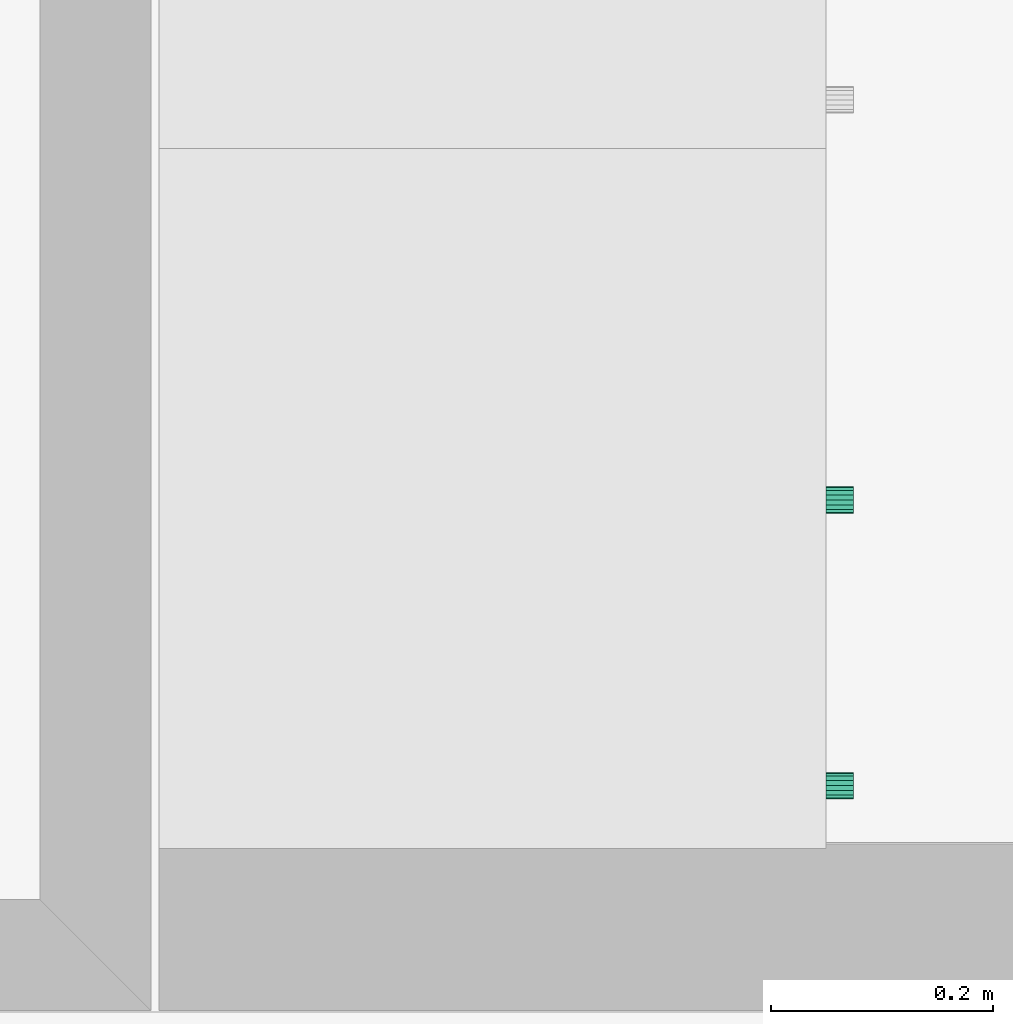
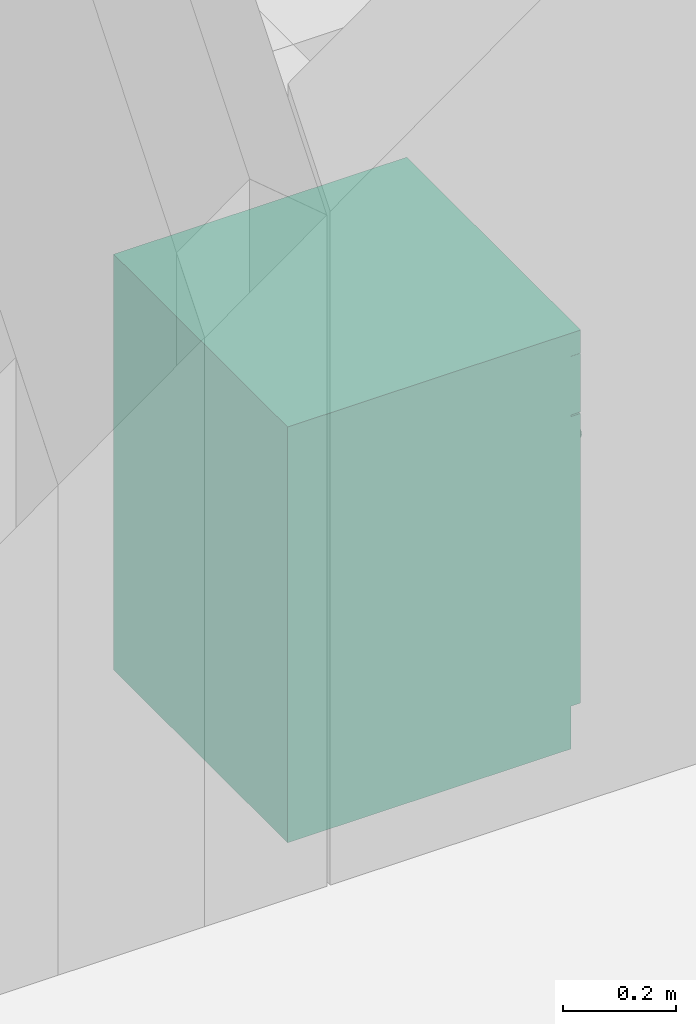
# One storey, part 69 of 172: 1 flow terminal.
"""IFC2X3 building model written with IfcOpenShell, lengths in millimetres."""

from ifc_helpers import new_model, entity, si_unit, converted_unit, money_unit, direction, frame, origin_with_axes, place, context, subcontext, project, spatial, faceted_brep, material, material_list, type_object, element, save


model = new_model("IFC2X3")

# Units and contexts
model_context = context("Model", 3, precision=1e-05, world=origin_with_axes(), true_north=direction((0.0, 1.0)))
body_context = subcontext(model_context, "Body", "Model", "MODEL_VIEW")
ifc_project = project(units=[si_unit("LENGTHUNIT", "METRE", prefix="MILLI"), si_unit("AREAUNIT", "SQUARE_METRE"), si_unit("VOLUMEUNIT", "CUBIC_METRE"), converted_unit("PLANEANGLEUNIT", "DEGREE", entity("IfcPlaneAngleMeasure", 0.0174532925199), si_unit("PLANEANGLEUNIT", "RADIAN"), dimensions=[0, 0, 0, 0, 0, 0, 0]), si_unit("SOLIDANGLEUNIT", "STERADIAN"), money_unit("USD"), converted_unit("TIMEUNIT", "Year", entity("IfcTimeMeasure", 31556926.0), si_unit("TIMEUNIT", "SECOND"), dimensions=[0, 0, 0, 0, 0, 0, 0]), si_unit("MASSUNIT", "GRAM"), si_unit("THERMODYNAMICTEMPERATUREUNIT", "DEGREE_CELSIUS"), si_unit("LUMINOUSINTENSITYUNIT", "LUMEN")], contexts=[model_context])

# Site, building, storey
site_placement = place(None, origin_with_axes())
site = spatial("IfcSite", under=ifc_project, at=site_placement, Name="Site", CompositionType="ELEMENT")
building_placement = place(site_placement, origin_with_axes())
building = spatial("IfcBuilding", under=site, at=building_placement, Name="Building", CompositionType="ELEMENT")
storey_placement = place(building_placement, frame((0.0, 0.0, 3200.0), z_axis=(0.0, 0.0, 1.0), x_axis=(1.0, 0.0, 0.0)))
storey = spatial("IfcBuildingStorey", under=building, at=storey_placement, Name="3KORRUS", CompositionType="ELEMENT", Elevation=3200.0)

# Flow terminal
ifc_material = material(Name="Background")
ifc_material_list = material_list([ifc_material])
sanitary_terminal_type = type_object("IfcSanitaryTerminalType", Name="Cabinet Base Single Door 19", PredefinedType="SINK")
flow_terminal_placement = place(storey_placement, frame((866.697734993, -10368.6268342, 0.0), z_axis=(0.0, 0.0, 1.0), x_axis=(0.0, 1.0, 0.0)))
element("IfcFlowTerminal", 1, at=flow_terminal_placement, inside=storey, type_object=sanitary_terminal_type, material=ifc_material_list, Name="FU - 007", context=body_context, shape_type="Brep", body=[
    faceted_brep([(-20.0, 20.0, 710.0), (-20.0, 20.0, 730.0), (-596.977, 20.0, 730.0), (-596.977, 20.0, 710.0), (-20.0, 580.0, 710.0), (-20.0, 580.0, 730.0), (-596.977, 580.0, 730.0), (-596.977, 580.0, 710.0)], [[[0, 1, 2, 3]], [[4, 5, 1, 0]], [[1, 5, 6, 2]], [[3, 2, 6, 7]], [[0, 3, 7, 4]], [[7, 6, 5, 4]]]),
    faceted_brep([(0.0, 20.0, 0.0), (0.0, 20.0, 90.0), (-616.977, 20.0, 90.0), (-616.977, 20.0, 0.0), (0.0, 600.0, 0.0), (0.0, 600.0, 90.0), (-616.977, 600.0, 90.0), (-616.977, 600.0, 0.0)], [[[0, 1, 2, 3]], [[4, 5, 1, 0]], [[1, 5, 6, 2]], [[3, 2, 6, 7]], [[0, 3, 7, 4]], [[7, 6, 5, 4]]]),
    faceted_brep([(0.0, 20.0, 830.0), (0.0, 20.0, 850.0), (-20.0, 20.0, 850.0), (-20.0, 20.0, 830.0), (0.0, 600.0, 830.0), (0.0, 600.0, 850.0), (-20.0, 600.0, 850.0), (-596.977, 600.0, 850.0), (-616.977, 600.0, 850.0), (-616.977, 20.0, 850.0), (-596.977, 20.0, 850.0), (-596.977, 20.0, 830.0), (-616.977, 20.0, 830.0), (-616.977, 600.0, 830.0), (-596.977, 600.0, 830.0), (-20.0, 600.0, 830.0)], [[[0, 1, 2, 3]], [[4, 5, 1, 0]], [[1, 5, 6, 7, 8, 9, 10, 2]], [[3, 2, 10, 11]], [[0, 3, 11, 12, 13, 14, 15, 4]], [[15, 6, 5, 4]], [[14, 7, 6, 15]], [[13, 8, 7, 14]], [[12, 9, 8, 13]], [[11, 10, 9, 12]]]),
    faceted_brep([(0.0, 20.0, 90.0), (0.0, 20.0, 110.0), (-20.0, 20.0, 110.0), (-20.0, 20.0, 90.0), (0.0, 600.0, 90.0), (0.0, 600.0, 110.0), (-20.0, 600.0, 110.0), (-596.977, 600.0, 110.0), (-616.977, 600.0, 110.0), (-616.977, 20.0, 110.0), (-596.977, 20.0, 110.0), (-596.977, 20.0, 90.0), (-616.977, 20.0, 90.0), (-616.977, 600.0, 90.0), (-596.977, 600.0, 90.0), (-20.0, 600.0, 90.0)], [[[0, 1, 2, 3]], [[4, 5, 1, 0]], [[1, 5, 6, 7, 8, 9, 10, 2]], [[3, 2, 10, 11]], [[0, 3, 11, 12, 13, 14, 15, 4]], [[15, 6, 5, 4]], [[14, 7, 6, 15]], [[13, 8, 7, 14]], [[12, 9, 8, 13]], [[11, 10, 9, 12]]]),
    faceted_brep([(0.0, 20.0, 110.0), (0.0, 20.0, 830.0), (-20.0, 20.0, 830.0), (-20.0, 20.0, 110.0), (0.0, 600.0, 110.0), (0.0, 600.0, 830.0), (-616.977, 600.0, 830.0), (-616.977, 20.0, 830.0), (-596.977, 20.0, 830.0), (-596.977, 580.0, 830.0), (-20.0, 580.0, 830.0), (-20.0, 580.0, 110.0), (-596.977, 580.0, 110.0), (-596.977, 20.0, 110.0), (-616.977, 20.0, 110.0), (-616.977, 600.0, 110.0)], [[[0, 1, 2, 3]], [[4, 5, 1, 0]], [[1, 5, 6, 7, 8, 9, 10, 2]], [[3, 2, 10, 11]], [[0, 3, 11, 12, 13, 14, 15, 4]], [[15, 6, 5, 4]], [[14, 7, 6, 15]], [[13, 8, 7, 14]], [[12, 9, 8, 13]], [[11, 10, 9, 12]]]),
    faceted_brep([(-596.977, 20.0, 385.0), (-596.977, 20.0, 405.0), (-596.977, 580.0, 405.0), (-596.977, 580.0, 385.0), (-20.0, 20.0, 385.0), (-20.0, 20.0, 405.0), (-20.0, 580.0, 405.0), (-20.0, 580.0, 385.0)], [[[0, 1, 2, 3]], [[4, 5, 1, 0]], [[1, 5, 6, 2]], [[3, 2, 6, 7]], [[0, 3, 7, 4]], [[7, 6, 5, 4]]]),
    faceted_brep([(0.0, 0.0, 850.0), (0.0, 0.0, 900.0), (-616.977, 0.0, 900.0), (-616.977, 0.0, 850.0), (0.0, 600.0, 850.0), (0.0, 600.0, 900.0), (-616.977, 600.0, 900.0), (-616.977, 600.0, 850.0)], [[[0, 1, 2, 3]], [[4, 5, 1, 0]], [[1, 5, 6, 2]], [[3, 2, 6, 7]], [[0, 3, 7, 4]], [[7, 6, 5, 4]]]),
    faceted_brep([(-1.5, 20.0, 721.5), (-1.5, 0.0, 721.5), (-615.477, 0.0, 721.5), (-615.477, 20.0, 721.5), (-1.5, 20.0, 848.5), (-1.5, 0.0, 848.5), (-615.477, 0.0, 848.5), (-615.477, 20.0, 848.5)], [[[0, 1, 2, 3]], [[4, 5, 1, 0]], [[1, 5, 6, 2]], [[3, 2, 6, 7]], [[0, 3, 7, 4]], [[7, 6, 5, 4]]]),
    faceted_brep([(-303.896, 0.0, 773.913), (-308.489, 0.0, 773.0), (-313.081, 0.0, 773.913), (-316.974, 0.0, 776.515), (-319.575, 0.0, 780.408), (-320.489, 0.0, 785.0), (-319.575, 0.0, 789.592), (-316.974, 0.0, 793.485), (-313.081, 0.0, 796.087), (-308.489, 0.0, 797.0), (-303.896, 0.0, 796.087), (-300.003, 0.0, 793.485), (-297.402, 0.0, 789.592), (-296.489, 0.0, 785.0), (-297.402, 0.0, 780.408), (-300.003, 0.0, 776.515), (-303.896, -25.0, 773.913), (-308.489, -25.0, 773.0), (-313.081, -25.0, 773.913), (-316.974, -25.0, 776.515), (-319.575, -25.0, 780.408), (-320.489, -25.0, 785.0), (-319.575, -25.0, 789.592), (-316.974, -25.0, 793.485), (-313.081, -25.0, 796.087), (-308.489, -25.0, 797.0), (-303.896, -25.0, 796.087), (-300.003, -25.0, 793.485), (-297.402, -25.0, 789.592), (-296.489, -25.0, 785.0), (-297.402, -25.0, 780.408), (-300.003, -25.0, 776.515)], [[[0, 1, 2, 3, 4, 5, 6, 7, 8, 9, 10, 11, 12, 13, 14, 15]], [[0, 16, 17, 1]], [[1, 17, 18, 2]], [[2, 18, 19, 3]], [[3, 19, 20, 4]], [[4, 20, 21, 5]], [[5, 21, 22, 6]], [[6, 22, 23, 7]], [[7, 23, 24, 8]], [[8, 24, 25, 9]], [[9, 25, 26, 10]], [[10, 26, 27, 11]], [[11, 27, 28, 12]], [[12, 28, 29, 13]], [[13, 29, 30, 14]], [[14, 30, 31, 15]], [[15, 31, 16, 0]], [[16, 31, 30, 29, 28, 27, 26, 25, 24, 23, 22, 21, 20, 19, 18, 17]]]),
    faceted_brep([(-1.5, 20.0, 91.5), (-1.5, 0.0, 91.5), (-615.477, 0.0, 91.5), (-615.477, 20.0, 91.5), (-1.5, 20.0, 718.5), (-1.5, 0.0, 718.5), (-615.477, 0.0, 718.5), (-615.477, 20.0, 718.5)], [[[0, 1, 2, 3]], [[4, 5, 1, 0]], [[1, 5, 6, 2]], [[3, 2, 6, 7]], [[0, 3, 7, 4]], [[7, 6, 5, 4]]]),
    faceted_brep([(-576.564, 0.0, 636.908), (-577.477, 0.0, 641.5), (-576.564, 0.0, 646.092), (-573.963, 0.0, 649.985), (-570.069, 0.0, 652.587), (-565.477, 0.0, 653.5), (-560.885, 0.0, 652.587), (-556.992, 0.0, 649.985), (-554.391, 0.0, 646.092), (-553.477, 0.0, 641.5), (-554.391, 0.0, 636.908), (-556.992, 0.0, 633.015), (-560.885, 0.0, 630.413), (-565.477, 0.0, 629.5), (-570.069, 0.0, 630.413), (-573.963, 0.0, 633.015), (-576.564, -25.0, 636.908), (-577.477, -25.0, 641.5), (-576.564, -25.0, 646.092), (-573.963, -25.0, 649.985), (-570.069, -25.0, 652.587), (-565.477, -25.0, 653.5), (-560.885, -25.0, 652.587), (-556.992, -25.0, 649.985), (-554.391, -25.0, 646.092), (-553.477, -25.0, 641.5), (-554.391, -25.0, 636.908), (-556.992, -25.0, 633.015), (-560.885, -25.0, 630.413), (-565.477, -25.0, 629.5), (-570.069, -25.0, 630.413), (-573.963, -25.0, 633.015)], [[[0, 1, 2, 3, 4, 5, 6, 7, 8, 9, 10, 11, 12, 13, 14, 15]], [[0, 16, 17, 1]], [[1, 17, 18, 2]], [[2, 18, 19, 3]], [[3, 19, 20, 4]], [[4, 20, 21, 5]], [[5, 21, 22, 6]], [[6, 22, 23, 7]], [[7, 23, 24, 8]], [[8, 24, 25, 9]], [[9, 25, 26, 10]], [[10, 26, 27, 11]], [[11, 27, 28, 12]], [[12, 28, 29, 13]], [[13, 29, 30, 14]], [[14, 30, 31, 15]], [[15, 31, 16, 0]], [[16, 31, 30, 29, 28, 27, 26, 25, 24, 23, 22, 21, 20, 19, 18, 17]]]),
])

save(model, "model.ifc")
